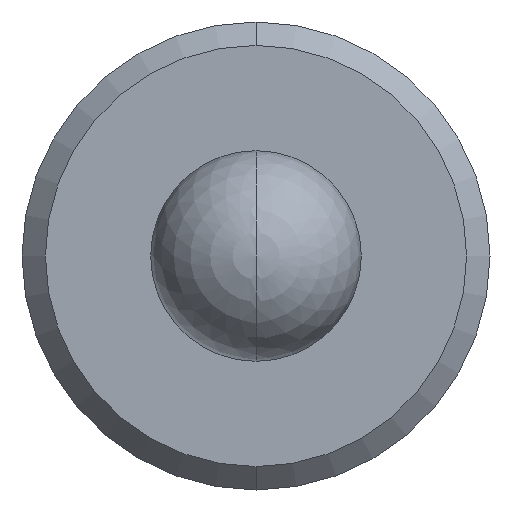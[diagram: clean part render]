
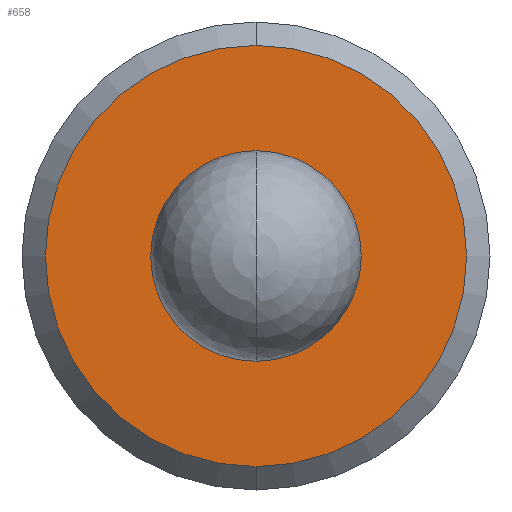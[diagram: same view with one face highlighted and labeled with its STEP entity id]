
A CAD part, front view. The second image highlights one B-rep face of the part: STEP entity #658.
In plain terms, the highlighted planar face has unit normal (0, -1, 0).
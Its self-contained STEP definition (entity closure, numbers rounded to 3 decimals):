
#205=CARTESIAN_POINT('',(0.,-9.497,0.));
#206=DIRECTION('',(0.,1.,0.));
#207=DIRECTION('',(0.,0.,-1.));
#208=AXIS2_PLACEMENT_3D('',#205,#206,#207);
#210=CARTESIAN_POINT('',(0.,-9.497,0.));
#211=DIRECTION('',(0.,-1.,0.));
#212=DIRECTION('',(0.,0.,-1.));
#213=AXIS2_PLACEMENT_3D('',#210,#211,#212);
#215=CARTESIAN_POINT('',(0.,-9.497,0.));
#216=DIRECTION('',(0.,-1.,0.));
#217=DIRECTION('',(0.,0.,-1.));
#218=AXIS2_PLACEMENT_3D('',#215,#216,#217);
#220=CARTESIAN_POINT('',(0.,-9.497,0.));
#221=DIRECTION('',(0.,1.,0.));
#222=DIRECTION('',(0.,0.,-1.));
#223=AXIS2_PLACEMENT_3D('',#220,#221,#222);
#261=CARTESIAN_POINT('',(0.,-9.497,-0.45));
#262=VERTEX_POINT('',#261);
#263=CARTESIAN_POINT('',(0.,-9.497,-0.9));
#265=VERTEX_POINT('',#263);
#291=CARTESIAN_POINT('',(0.,-9.497,0.45));
#292=VERTEX_POINT('',#291);
#293=CARTESIAN_POINT('',(0.,-9.497,0.9));
#295=VERTEX_POINT('',#293);
#643=CARTESIAN_POINT('',(0.,-9.497,0.));
#644=DIRECTION('',(0.,-1.,0.));
#645=DIRECTION('',(0.,0.,1.));
#646=AXIS2_PLACEMENT_3D('',#643,#644,#645);
#647=PLANE('',#646);
#648=ORIENTED_EDGE('',*,*,#625,.T.);
#649=ORIENTED_EDGE('',*,*,#636,.F.);
#650=EDGE_LOOP('',(#648,#649));
#651=FACE_OUTER_BOUND('',#650,.F.);
#653=ORIENTED_EDGE('',*,*,#652,.T.);
#655=ORIENTED_EDGE('',*,*,#654,.F.);
#656=EDGE_LOOP('',(#653,#655));
#657=FACE_BOUND('',#656,.F.);
#658=ADVANCED_FACE('',(#651,#657),#647,.T.);
#209=CIRCLE('',#208,0.9);
#214=CIRCLE('',#213,0.9);
#219=CIRCLE('',#218,0.45);
#224=CIRCLE('',#223,0.45);
#625=EDGE_CURVE('',#265,#295,#209,.T.);
#636=EDGE_CURVE('',#265,#295,#214,.T.);
#652=EDGE_CURVE('',#262,#292,#219,.T.);
#654=EDGE_CURVE('',#262,#292,#224,.T.);
